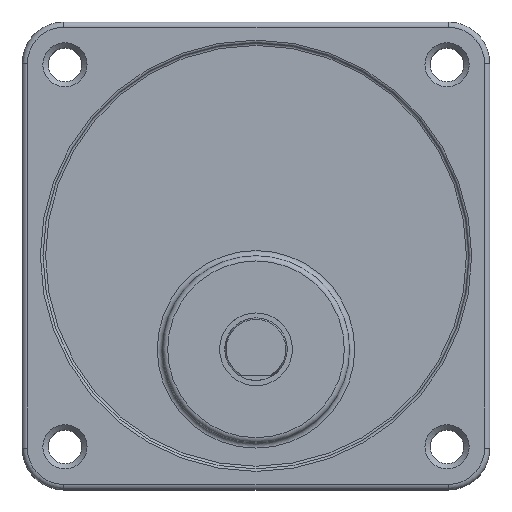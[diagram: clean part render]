
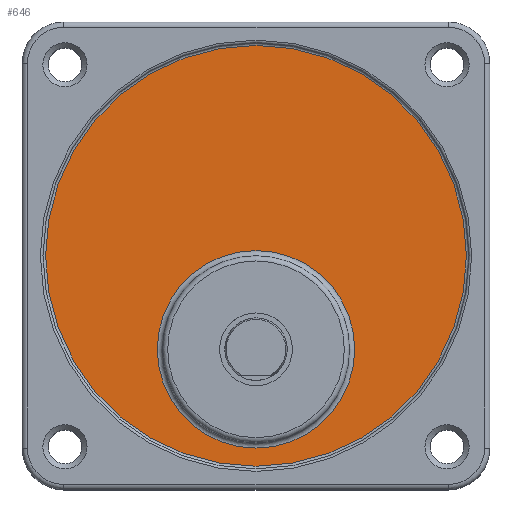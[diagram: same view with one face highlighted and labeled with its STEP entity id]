
A CAD part, top view. The second image highlights one B-rep face of the part: STEP entity #646.
In plain terms, the highlighted planar face has unit normal (0, 0, 1).
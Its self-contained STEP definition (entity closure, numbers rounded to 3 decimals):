
#595=CARTESIAN_POINT('',(64.,27.,41.));
#596=VERTEX_POINT('',#595);
#597=CARTESIAN_POINT('',(45.,27.0,41.));
#598=DIRECTION('',(0.0,0.0,1.0));
#599=DIRECTION('',(-1.0,0.0,0.0));
#600=AXIS2_PLACEMENT_3D('',#597,#598,#599);
#601=CIRCLE('',#600,19.0);
#602=EDGE_CURVE('',#596,#596,#601,.T.);
#627=CARTESIAN_POINT('',(45.,45.0,41.));
#628=DIRECTION('',(0.0,0.0,-1.0));
#629=DIRECTION('',(-1.0,0.0,0.0));
#630=AXIS2_PLACEMENT_3D('',#627,#628,#629);
#631=PLANE('',#630);
#632=CARTESIAN_POINT('',(85.5,45.,41.));
#633=VERTEX_POINT('',#632);
#634=CARTESIAN_POINT('',(45.,45.0,41.));
#635=DIRECTION('',(0.0,0.0,-1.0));
#636=DIRECTION('',(-1.0,0.0,0.0));
#637=AXIS2_PLACEMENT_3D('',#634,#635,#636);
#638=CIRCLE('',#637,40.5);
#639=EDGE_CURVE('',#633,#633,#638,.T.);
#640=ORIENTED_EDGE('',*,*,#639,.F.);
#641=EDGE_LOOP('',(#640));
#642=FACE_OUTER_BOUND('',#641,.T.);
#643=ORIENTED_EDGE('',*,*,#602,.F.);
#644=EDGE_LOOP('',(#643));
#645=FACE_BOUND('',#644,.T.);
#646=ADVANCED_FACE('',(#642,#645),#631,.F.);
